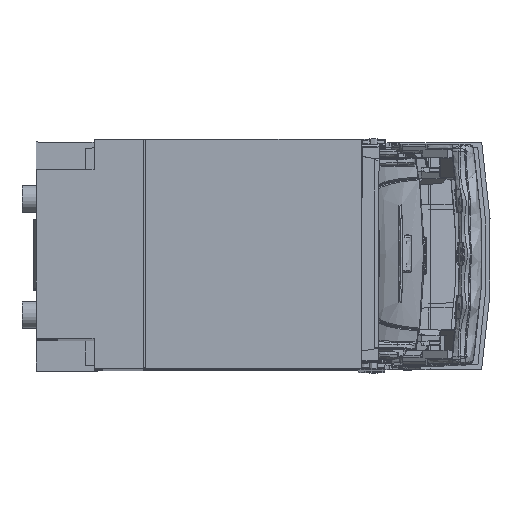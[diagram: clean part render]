
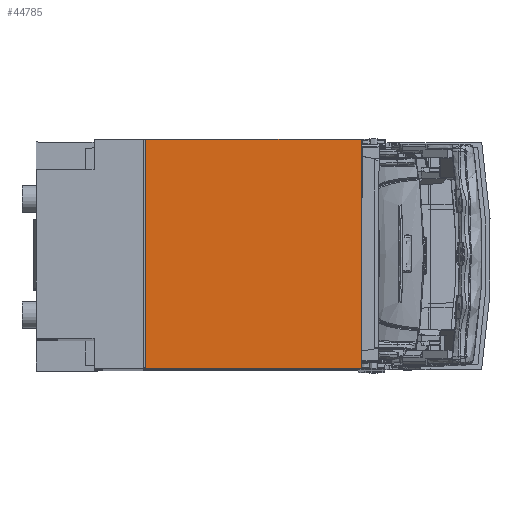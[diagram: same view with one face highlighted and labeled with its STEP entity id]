
A CAD part, top view. The second image highlights one B-rep face of the part: STEP entity #44785.
In plain terms, the highlighted planar face has unit normal (0, 0, 1).
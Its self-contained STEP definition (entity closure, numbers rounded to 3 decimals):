
#44785=ADVANCED_FACE('',(#55008),#52052,.F.);
#52052=PLANE('',#163967);
#55008=FACE_OUTER_BOUND('',#62297,.T.);
#62297=EDGE_LOOP('',(#77626,#77627,#77628,#77629));
#77626=ORIENTED_EDGE('',*,*,#128067,.T.);
#77627=ORIENTED_EDGE('',*,*,#127322,.F.);
#77628=ORIENTED_EDGE('',*,*,#127185,.F.);
#77629=ORIENTED_EDGE('',*,*,#127123,.F.);
#114901=VERTEX_POINT('',#199628);
#114902=VERTEX_POINT('',#199630);
#114956=VERTEX_POINT('',#199872);
#115089=VERTEX_POINT('',#200239);
#127123=EDGE_CURVE('',#114901,#114902,#146220,.T.);
#127185=EDGE_CURVE('',#114902,#114956,#146261,.T.);
#127322=EDGE_CURVE('',#114956,#115089,#146342,.T.);
#128067=EDGE_CURVE('',#114901,#115089,#147072,.T.);
#146220=LINE('',#199629,#154915);
#146261=LINE('',#199871,#154956);
#146342=LINE('',#200238,#155037);
#147072=LINE('',#201709,#155767);
#154915=VECTOR('',#172787,1.);
#154956=VECTOR('',#172864,1.);
#155037=VECTOR('',#173035,1.);
#155767=VECTOR('',#173915,1.);
#163967=AXIS2_PLACEMENT_3D('',#201710,#173916,#173917);
#172787=DIRECTION('',(1.,0.,0.));
#172864=DIRECTION('',(0.,-1.,0.));
#173035=DIRECTION('',(-1.,0.,0.));
#173915=DIRECTION('',(0.,-1.,0.));
#173916=DIRECTION('',(0.,0.,-1.));
#173917=DIRECTION('',(0.,1.,0.));
#199628=CARTESIAN_POINT('',(47.2,49.5,292.));
#199629=CARTESIAN_POINT('',(152.,49.5,292.));
#199630=CARTESIAN_POINT('',(140.5,49.5,292.));
#199871=CARTESIAN_POINT('',(140.5,49.5,292.));
#199872=CARTESIAN_POINT('',(140.5,-49.5,292.));
#200238=CARTESIAN_POINT('',(152.,-49.5,292.));
#200239=CARTESIAN_POINT('',(47.2,-49.5,292.));
#201709=CARTESIAN_POINT('',(47.2,49.3,292.));
#201710=CARTESIAN_POINT('',(152.,49.5,292.));
